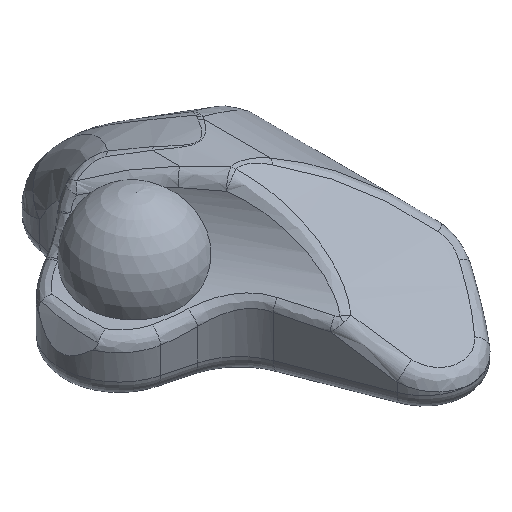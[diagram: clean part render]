
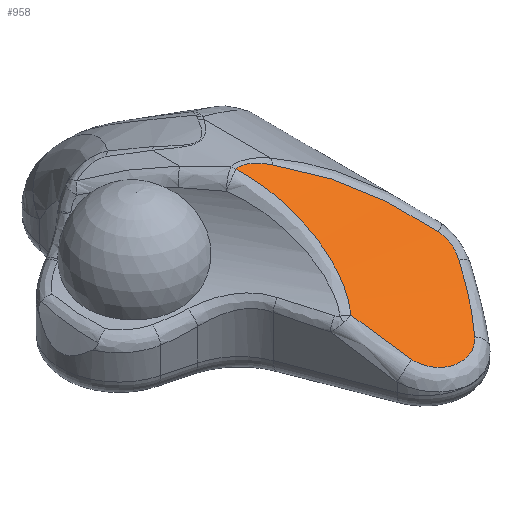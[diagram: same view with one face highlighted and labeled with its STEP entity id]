
A CAD part, isometric view. The second image highlights one B-rep face of the part: STEP entity #958.
In plain terms, the highlighted free-form (B-spline) face has degree [3, 1] with [4, 2] control points.
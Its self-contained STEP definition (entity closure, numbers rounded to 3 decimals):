
#99=FACE_OUTER_BOUND('',#166,.T.);
#166=EDGE_LOOP('',(#694,#695,#696,#697,#698,#699,#700));
#216=B_SPLINE_CURVE_WITH_KNOTS('',3,(#1458,#1459,#1460,#1461,#1462,#1463,
#1464,#1465,#1466),.UNSPECIFIED.,.F.,.F.,(4,1,1,1,1,1,4),(-4.674,
-4.039,-3.38,-2.06,-0.741,
-0.411,-0.082),.UNSPECIFIED.);
#219=B_SPLINE_CURVE_WITH_KNOTS('',3,(#1509,#1510,#1511,#1512,#1513),
 .UNSPECIFIED.,.F.,.F.,(4,1,4),(0.,1.157,1.897),
 .UNSPECIFIED.);
#221=B_SPLINE_CURVE_WITH_KNOTS('',3,(#1559,#1560,#1561,#1562,#1563,#1564,
#1565),.UNSPECIFIED.,.F.,.F.,(4,1,1,1,4),(0.,0.336,1.009,
1.681,2.354),.UNSPECIFIED.);
#223=B_SPLINE_CURVE_WITH_KNOTS('',3,(#1599,#1600,#1601,#1602,#1603),
 .UNSPECIFIED.,.F.,.F.,(4,1,4),(0.,1.136,2.272),
 .UNSPECIFIED.);
#225=B_SPLINE_CURVE_WITH_KNOTS('',3,(#1637,#1638,#1639,#1640,#1641),
 .UNSPECIFIED.,.F.,.F.,(4,1,4),(0.,0.378,0.882),
 .UNSPECIFIED.);
#226=B_SPLINE_CURVE_WITH_KNOTS('',3,(#1680,#1681,#1682,#1683,#1684,#1685,
#1686),.UNSPECIFIED.,.F.,.F.,(4,1,1,1,4),(-4.438,-3.804,
-3.17,-1.902,0.),
 .UNSPECIFIED.);
#228=B_SPLINE_CURVE_WITH_KNOTS('',3,(#1722,#1723,#1724,#1725,#1726,#1727,
#1728),.UNSPECIFIED.,.F.,.F.,(4,1,1,1,4),(-0.973,-0.695,
-0.556,-0.278,0.),.UNSPECIFIED.);
#354=VERTEX_POINT('',#1393);
#357=VERTEX_POINT('',#1410);
#359=VERTEX_POINT('',#1507);
#361=VERTEX_POINT('',#1557);
#363=VERTEX_POINT('',#1597);
#365=VERTEX_POINT('',#1635);
#367=VERTEX_POINT('',#1678);
#448=EDGE_CURVE('',#354,#357,#216,.T.);
#452=EDGE_CURVE('',#359,#354,#219,.T.);
#455=EDGE_CURVE('',#361,#359,#221,.T.);
#458=EDGE_CURVE('',#363,#361,#223,.T.);
#461=EDGE_CURVE('',#365,#363,#225,.T.);
#463=EDGE_CURVE('',#367,#365,#226,.T.);
#465=EDGE_CURVE('',#357,#367,#228,.T.);
#694=ORIENTED_EDGE('',*,*,#448,.F.);
#695=ORIENTED_EDGE('',*,*,#452,.F.);
#696=ORIENTED_EDGE('',*,*,#455,.F.);
#697=ORIENTED_EDGE('',*,*,#458,.F.);
#698=ORIENTED_EDGE('',*,*,#461,.F.);
#699=ORIENTED_EDGE('',*,*,#463,.F.);
#700=ORIENTED_EDGE('',*,*,#465,.F.);
#912=B_SPLINE_SURFACE_WITH_KNOTS('',3,1,((#2099,#2100),(#2101,#2102),(#2103,
#2104),(#2105,#2106)),.UNSPECIFIED.,.F.,.F.,.F.,(4,4),(2,2),(1.,2.),(0.,
14.85),.UNSPECIFIED.);
#958=ADVANCED_FACE('',(#99),#912,.F.);
#1393=CARTESIAN_POINT('',(0.072,24.723,22.314));
#1410=CARTESIAN_POINT('',(-1.311,62.636,47.231));
#1458=CARTESIAN_POINT('Ctrl Pts',(0.072,24.723,22.314));
#1459=CARTESIAN_POINT('Ctrl Pts',(1.254,26.134,23.277));
#1460=CARTESIAN_POINT('Ctrl Pts',(3.154,29.27,25.472));
#1461=CARTESIAN_POINT('Ctrl Pts',(5.192,36.058,30.447));
#1462=CARTESIAN_POINT('Ctrl Pts',(4.998,44.974,37.13));
#1463=CARTESIAN_POINT('Ctrl Pts',(2.512,53.14,42.799));
#1464=CARTESIAN_POINT('Ctrl Pts',(0.089,59.198,45.95));
#1465=CARTESIAN_POINT('Ctrl Pts',(-0.826,61.417,46.851));
#1466=CARTESIAN_POINT('Ctrl Pts',(-1.311,62.636,47.231));
#1507=CARTESIAN_POINT('',(6.038,9.91,13.569));
#1509=CARTESIAN_POINT('Ctrl Pts',(6.038,9.91,13.569));
#1510=CARTESIAN_POINT('Ctrl Pts',(4.77,12.979,15.02));
#1511=CARTESIAN_POINT('Ctrl Pts',(2.757,17.952,17.821));
#1512=CARTESIAN_POINT('Ctrl Pts',(0.82,22.829,21.023));
#1513=CARTESIAN_POINT('Ctrl Pts',(0.072,24.723,22.314));
#1557=CARTESIAN_POINT('',(24.821,7.125,12.332));
#1559=CARTESIAN_POINT('Ctrl Pts',(24.821,7.125,12.332));
#1560=CARTESIAN_POINT('Ctrl Pts',(24.146,6.365,12.017));
#1561=CARTESIAN_POINT('Ctrl Pts',(21.728,4.325,11.234));
#1562=CARTESIAN_POINT('Ctrl Pts',(16.102,2.801,10.77));
#1563=CARTESIAN_POINT('Ctrl Pts',(9.426,4.841,11.394));
#1564=CARTESIAN_POINT('Ctrl Pts',(6.775,8.126,12.726));
#1565=CARTESIAN_POINT('Ctrl Pts',(6.038,9.91,13.569));
#1597=CARTESIAN_POINT('',(35.766,23.541,21.515));
#1599=CARTESIAN_POINT('Ctrl Pts',(35.766,23.541,21.515));
#1600=CARTESIAN_POINT('Ctrl Pts',(34.376,20.696,19.606));
#1601=CARTESIAN_POINT('Ctrl Pts',(31.194,15.073,16.073));
#1602=CARTESIAN_POINT('Ctrl Pts',(27.103,9.693,13.396));
#1603=CARTESIAN_POINT('Ctrl Pts',(24.821,7.125,12.332));
#1635=CARTESIAN_POINT('',(35.688,30.423,26.329));
#1637=CARTESIAN_POINT('Ctrl Pts',(35.688,30.423,26.329));
#1638=CARTESIAN_POINT('Ctrl Pts',(36.236,29.515,25.673));
#1639=CARTESIAN_POINT('Ctrl Pts',(36.936,27.184,24.003));
#1640=CARTESIAN_POINT('Ctrl Pts',(36.384,24.803,22.362));
#1641=CARTESIAN_POINT('Ctrl Pts',(35.766,23.541,21.515));
#1678=CARTESIAN_POINT('',(7.598,59.106,45.845));
#1680=CARTESIAN_POINT('Ctrl Pts',(7.598,59.106,45.845));
#1681=CARTESIAN_POINT('Ctrl Pts',(9.282,57.771,45.227));
#1682=CARTESIAN_POINT('Ctrl Pts',(12.607,55.222,43.869));
#1683=CARTESIAN_POINT('Ctrl Pts',(18.904,50.125,40.709));
#1684=CARTESIAN_POINT('Ctrl Pts',(27.392,42.197,35.103));
#1685=CARTESIAN_POINT('Ctrl Pts',(32.935,34.986,29.629));
#1686=CARTESIAN_POINT('Ctrl Pts',(35.688,30.423,26.329));
#1722=CARTESIAN_POINT('Ctrl Pts',(-1.311,62.636,47.231));
#1723=CARTESIAN_POINT('Ctrl Pts',(-0.399,62.835,47.293));
#1724=CARTESIAN_POINT('Ctrl Pts',(1.013,62.807,47.286));
#1725=CARTESIAN_POINT('Ctrl Pts',(3.248,62.022,47.037));
#1726=CARTESIAN_POINT('Ctrl Pts',(5.333,60.817,46.602));
#1727=CARTESIAN_POINT('Ctrl Pts',(6.86,59.691,46.117));
#1728=CARTESIAN_POINT('Ctrl Pts',(7.598,59.106,45.845));
#2099=CARTESIAN_POINT('Ctrl Pts',(50.,66.893,47.989));
#2100=CARTESIAN_POINT('Ctrl Pts',(-98.5,66.893,47.989));
#2101=CARTESIAN_POINT('Ctrl Pts',(50.,51.653,47.725));
#2102=CARTESIAN_POINT('Ctrl Pts',(-98.5,51.653,47.725));
#2103=CARTESIAN_POINT('Ctrl Pts',(50.,24.04,15.554));
#2104=CARTESIAN_POINT('Ctrl Pts',(-98.5,24.04,15.554));
#2105=CARTESIAN_POINT('Ctrl Pts',(50.,0.,10.));
#2106=CARTESIAN_POINT('Ctrl Pts',(-98.5,0.,10.));
